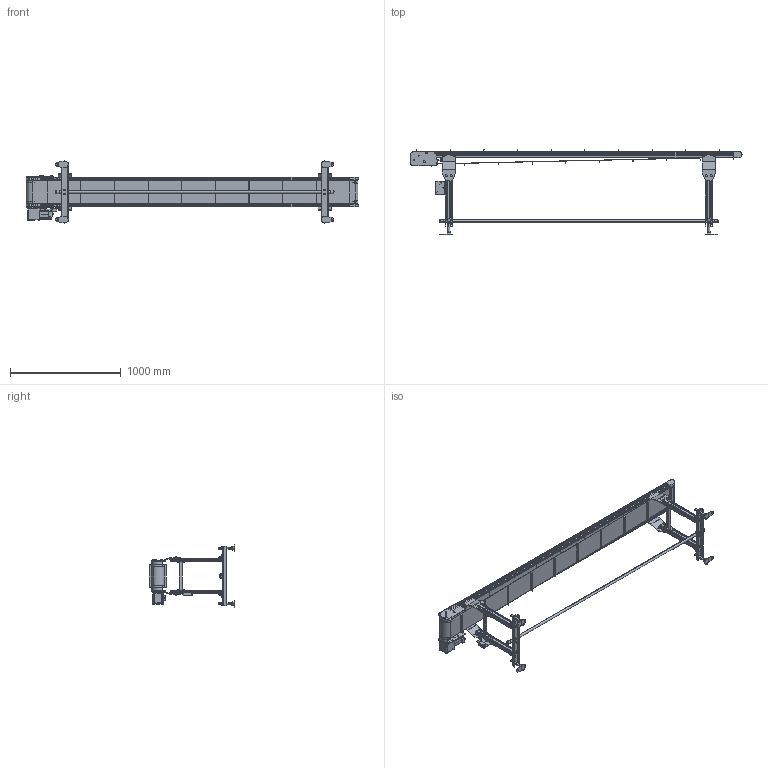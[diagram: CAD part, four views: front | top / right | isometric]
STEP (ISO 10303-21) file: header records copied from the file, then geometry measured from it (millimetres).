
FILE_DESCRIPTION( (''), '2;1');
FILE_NAME ('MB2S-HS-309-200-300-R-K-100-O.stp','2025-02-17T11:52:06',(''),(''),'spGate 20.6.2 (****-****-****-****)','','');
FILE_SCHEMA (('AUTOMOTIVE_DESIGN'));
Length unit declared in the file: millimetre
Products named in the file (47): NewModel; MB2S-HS-200-3000-R; TEMP_X_T-prt0; TEMP_X_T-prt1; TEMP_X_T-prt2; TEMP_X_T-prt3; TEMP_X_T-prt4; TEMP_X_T-prt5; TEMP_X_T-prt6; TEMP_X_T-prt7; TEMP_X_T-prt8; TEMP_X_T-prt9; TEMP_X_T-prt10; TEMP_X_T-prt11; TEMP_X_T-prt12; TEMP_X_T-prt13; TEMP_X_T-prt14; TEMP_X_T-prt15; TEMP_X_T-prt16; TEMP_X_T-prt17; TEMP_X_T-prt18; TEMP_X_T-prt19; TEMP_X_T-prt20; TEMP_X_T-prt21; TEMP_X_T-prt22; TEMP_X_T-prt23; TEMP_X_T-prt24; TEMP_X_T-prt25; TEMP_X_T-prt26; TEMP_X_T-prt27; TEMP_X_T-prt28; TEMP_X_T-prt29; TEMP_X_T-prt30; TEMP_X_T-prt31; TEMP_X_T-prt32; TEMP_X_T-prt33; TEMP_X_T-prt34; TEMP_X_T-prt35; TEMP_X_T-prt36; TEMP_X_T-prt37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
Assembly tree (46 placements, depth 3):
  NewModel
    MB2S-HS-200-3000-R
      TEMP_X_T-prt0
      TEMP_X_T-prt1
      TEMP_X_T-prt2
      TEMP_X_T-prt3
      TEMP_X_T-prt4
      TEMP_X_T-prt5
      TEMP_X_T-prt6
      TEMP_X_T-prt7
      TEMP_X_T-prt8
      TEMP_X_T-prt9
      TEMP_X_T-prt10
      TEMP_X_T-prt11
      TEMP_X_T-prt12
      TEMP_X_T-prt13
      TEMP_X_T-prt14
      TEMP_X_T-prt15
      TEMP_X_T-prt16
      TEMP_X_T-prt17
      TEMP_X_T-prt18
      TEMP_X_T-prt19
      TEMP_X_T-prt20
      TEMP_X_T-prt21
      TEMP_X_T-prt22
      TEMP_X_T-prt23
      TEMP_X_T-prt24
      TEMP_X_T-prt25
      TEMP_X_T-prt26
      TEMP_X_T-prt27
      TEMP_X_T-prt28
      TEMP_X_T-prt29
      TEMP_X_T-prt30
      TEMP_X_T-prt31
      TEMP_X_T-prt32
      TEMP_X_T-prt33
      TEMP_X_T-prt34
      TEMP_X_T-prt35
      TEMP_X_T-prt36
      TEMP_X_T-prt37
      TEMP_X_T-prt38
      TEMP_X_T-prt39
      TEMP_X_T-prt40
      TEMP_X_T-prt41
      TEMP_X_T-prt42
      TEMP_X_T-prt43
      TEMP_X_T-prt44
Bounding box: 3000.7 x 772.49 x 560.99 mm (x, y, z)
Volume: 17383171.6 mm3; surface area: 7709617.1 mm2
Topology: 45 solids, 45 shells, 2192 faces, 5452 edges, 3549 vertices
Faces by surface type: plane 1563, cylinder 526, bspline 95, sphere 8
Entity records: 111266 total; most frequent: CARTESIAN_POINT 13695, ORIENTED_EDGE 10880, DIRECTION 10476, COLOUR_RGB 7677, PRESENTATION_STYLE_ASSIGNMENT 7677, STYLED_ITEM 7677, EDGE_CURVE 5440, DRAUGHTING_PRE_DEFINED_CURVE_FONT 5440
